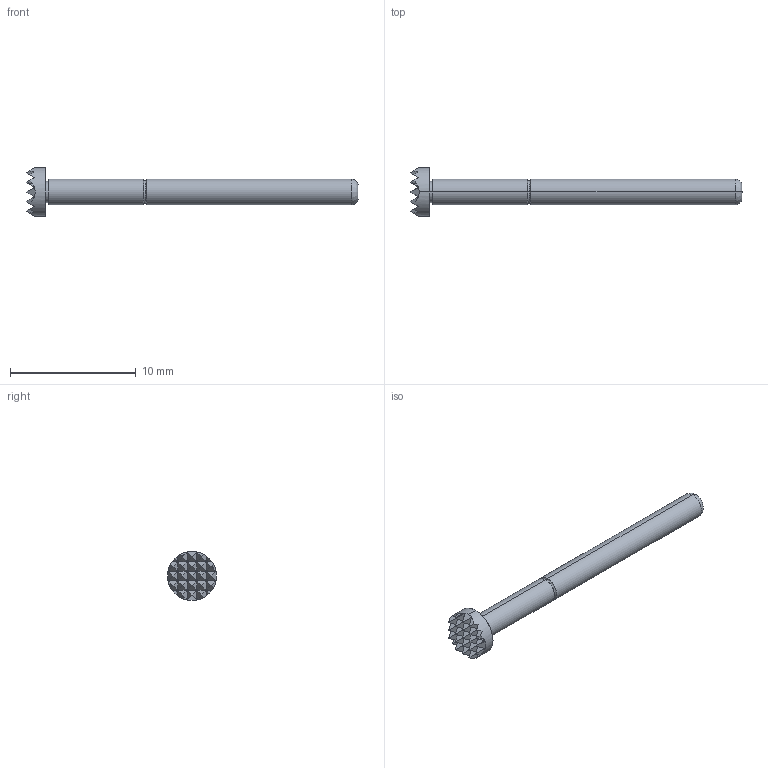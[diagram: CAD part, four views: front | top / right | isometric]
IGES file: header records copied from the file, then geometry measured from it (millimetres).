
Start section: SolidWorks IGES file using analytic representation for surfaces
Global section: file name: O:\PYLON\IGES FILES\P2665\P2665G-2W1S FULL.IGS; native system: SolidWorks 2015; preprocessor: SolidWorks 2015; author: kgolden; date: 171019.141357; units: inch
Bounding box: 26.41 x 3.89 x 3.89 mm (x, y, z)
Surface area: 216.6 mm2 (no closed solid volume)
Topology: 0 solids, 0 shells, 103 faces, 494 edges, 494 vertices
Faces by surface type: bspline 93, revolution 10
